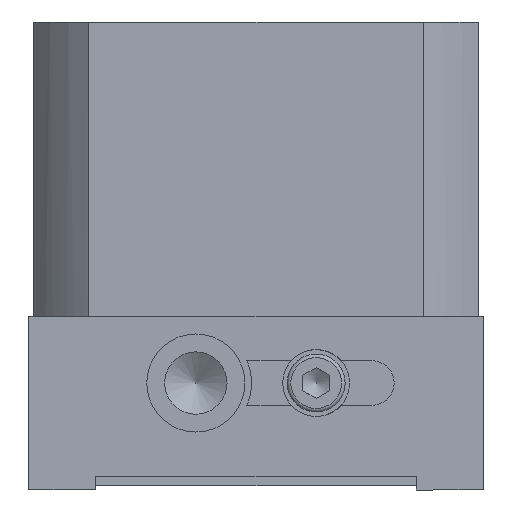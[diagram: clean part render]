
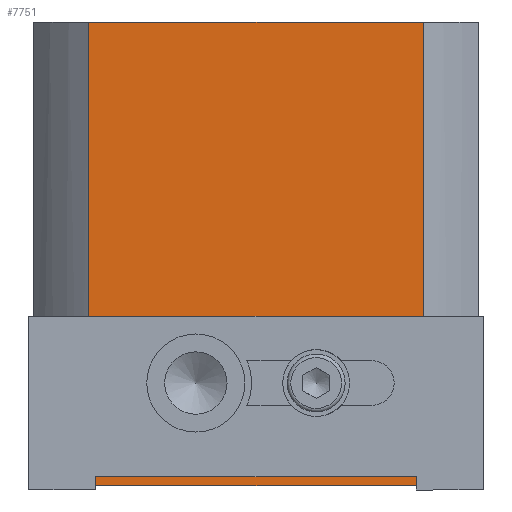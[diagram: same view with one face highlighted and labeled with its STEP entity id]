
A CAD part, left-side view. The second image highlights one B-rep face of the part: STEP entity #7751.
In plain terms, the highlighted planar face has unit normal (-1, 0, 0).
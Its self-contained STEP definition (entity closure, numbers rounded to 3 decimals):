
#6073=CARTESIAN_POINT('',(-50.,12.5,-104.0));
#6074=VERTEX_POINT('',#6073);
#6082=CARTESIAN_POINT('',(-50.,87.5,-104.0));
#6083=VERTEX_POINT('',#6082);
#6084=CARTESIAN_POINT('',(-50.,87.5,-104.0));
#6085=DIRECTION('',(0.0,-1.0,0.0));
#6086=VECTOR('',#6085,75.);
#6087=LINE('',#6084,#6086);
#6088=EDGE_CURVE('',#6083,#6074,#6087,.T.);
#6719=CARTESIAN_POINT('',(-50.0,87.5,0.0));
#6720=VERTEX_POINT('',#6719);
#6728=CARTESIAN_POINT('',(-50.0,12.5,0.0));
#6729=VERTEX_POINT('',#6728);
#6730=CARTESIAN_POINT('',(-50.0,87.5,0.0));
#6731=DIRECTION('',(0.0,-1.0,0.0));
#6732=VECTOR('',#6731,75.0);
#6733=LINE('',#6730,#6732);
#6734=EDGE_CURVE('',#6720,#6729,#6733,.T.);
#7597=CARTESIAN_POINT('',(-50.0,12.5,0.0));
#7598=DIRECTION('',(0.0,0.0,-1.0));
#7599=VECTOR('',#7598,104.0);
#7600=LINE('',#7597,#7599);
#7601=EDGE_CURVE('',#6729,#6074,#7600,.T.);
#7705=CARTESIAN_POINT('',(-50.0,87.5,0.0));
#7706=DIRECTION('',(0.0,0.0,-1.0));
#7707=VECTOR('',#7706,104.0);
#7708=LINE('',#7705,#7707);
#7709=EDGE_CURVE('',#6720,#6083,#7708,.T.);
#7718=CARTESIAN_POINT('',(-50.0,87.5,0.0));
#7719=DIRECTION('',(-1.0,0.0,0.0));
#7720=DIRECTION('',(0.0,0.0,1.0));
#7721=AXIS2_PLACEMENT_3D('',#7718,#7719,#7720);
#7722=PLANE('',#7721);
#7723=ORIENTED_EDGE('',*,*,#7601,.F.);
#7724=ORIENTED_EDGE('',*,*,#6734,.F.);
#7725=ORIENTED_EDGE('',*,*,#7709,.T.);
#7726=ORIENTED_EDGE('',*,*,#6088,.T.);
#7727=EDGE_LOOP('',(#7723,#7724,#7725,#7726));
#7728=FACE_OUTER_BOUND('',#7727,.T.);
#7729=CARTESIAN_POINT('',(-50.,63.5,-70.));
#7730=VERTEX_POINT('',#7729);
#7731=CARTESIAN_POINT('',(-50.,63.5,-81.));
#7732=DIRECTION('',(-1.0,0.0,0.0));
#7733=DIRECTION('',(0.0,1.0,0.0));
#7734=AXIS2_PLACEMENT_3D('',#7731,#7732,#7733);
#7735=CIRCLE('',#7734,11.0);
#7736=EDGE_CURVE('',#7730,#7730,#7735,.T.);
#7737=ORIENTED_EDGE('',*,*,#7736,.F.);
#7738=EDGE_LOOP('',(#7737));
#7739=FACE_BOUND('',#7738,.T.);
#7740=CARTESIAN_POINT('',(-50.,36.5,-70.));
#7741=VERTEX_POINT('',#7740);
#7742=CARTESIAN_POINT('',(-50.,36.5,-81.));
#7743=DIRECTION('',(-1.0,0.0,0.0));
#7744=DIRECTION('',(0.0,-1.0,0.0));
#7745=AXIS2_PLACEMENT_3D('',#7742,#7743,#7744);
#7746=CIRCLE('',#7745,11.0);
#7747=EDGE_CURVE('',#7741,#7741,#7746,.T.);
#7748=ORIENTED_EDGE('',*,*,#7747,.F.);
#7749=EDGE_LOOP('',(#7748));
#7750=FACE_BOUND('',#7749,.T.);
#7751=ADVANCED_FACE('',(#7728,#7739,#7750),#7722,.T.);
